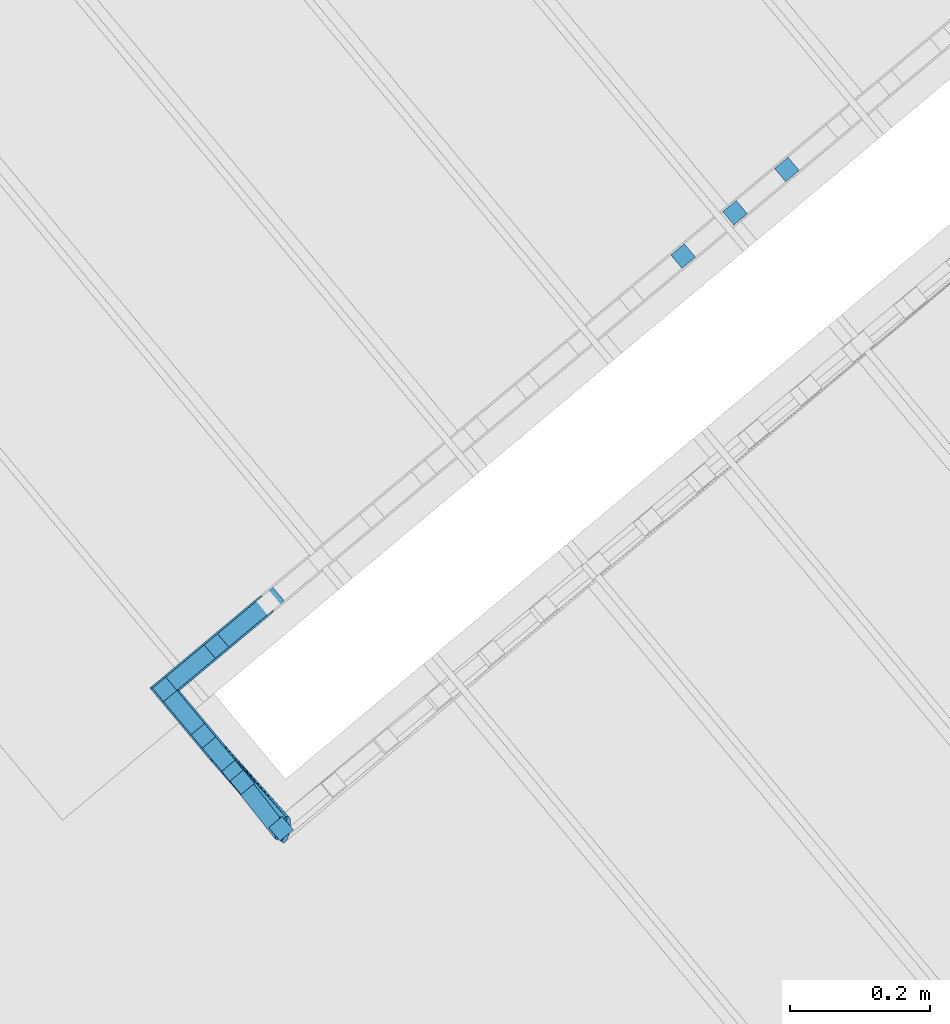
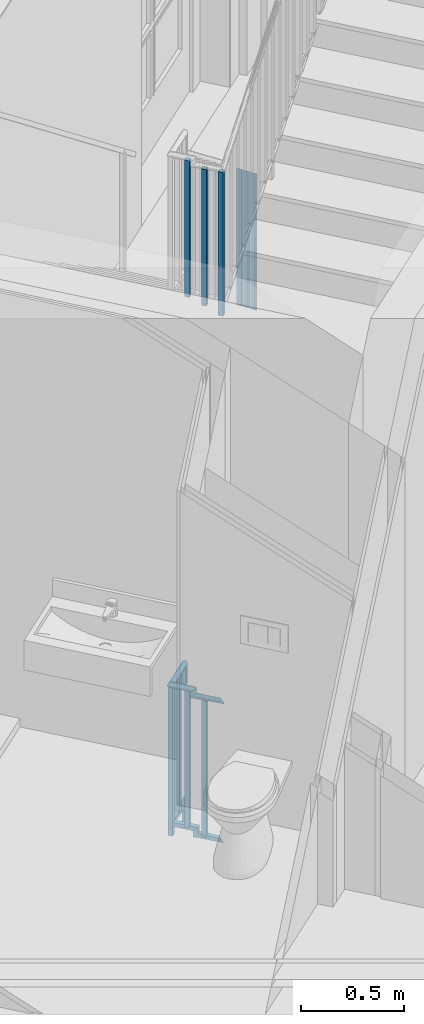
# One storey, part 59 of 75: 16 building element parts, 2 elements without a shape of their own.
"""IFC4 building model written with IfcOpenShell, lengths in metres."""

from ifc_helpers import new_model, entity, si_unit, converted_unit, derived_unit, direction, frame, origin_with_axes, place, context, subcontext, project, spatial, polygons, material, type_object, element, aggregate, save


model = new_model("IFC4")

# Units and contexts
model_context = context("Model", 3, precision=1e-05, world=origin_with_axes(), true_north=direction((0.0, 1.0)))
body_context = subcontext(model_context, "Body", "Model", "MODEL_VIEW")
ifc_project = project(units=[si_unit("LENGTHUNIT", "METRE"), si_unit("AREAUNIT", "SQUARE_METRE"), si_unit("VOLUMEUNIT", "CUBIC_METRE"), converted_unit("PLANEANGLEUNIT", "DEGREE", entity("IfcPlaneAngleMeasure", 0.0174532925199), si_unit("PLANEANGLEUNIT", "RADIAN"), dimensions=[0, 0, 0, 0, 0, 0, 0]), converted_unit("TIMEUNIT", "Year", entity("IfcTimeMeasure", 31556926.0), si_unit("TIMEUNIT", "SECOND"), dimensions=[0, 0, 1, 0, 0, 0, 0]), si_unit("MASSUNIT", "GRAM", prefix="KILO"), si_unit("THERMODYNAMICTEMPERATUREUNIT", "DEGREE_CELSIUS"), si_unit("LUMINOUSINTENSITYUNIT", "LUMEN"), si_unit("ENERGYUNIT", "JOULE", prefix="MEGA"), derived_unit("THERMALCONDUCTANCEUNIT", [(si_unit("POWERUNIT", "WATT"), 1), (si_unit("LENGTHUNIT", "METRE"), -1), (si_unit("THERMODYNAMICTEMPERATUREUNIT", "KELVIN"), -1)]), derived_unit("SPECIFICHEATCAPACITYUNIT", [(si_unit("ENERGYUNIT", "JOULE"), 1), (si_unit("MASSUNIT", "GRAM", prefix="KILO"), -1), (si_unit("THERMODYNAMICTEMPERATUREUNIT", "KELVIN"), -1)]), derived_unit("MASSDENSITYUNIT", [(si_unit("MASSUNIT", "GRAM", prefix="KILO"), 1), (si_unit("VOLUMEUNIT", "CUBIC_METRE"), -1)])], contexts=[model_context])

# Site, building, storey, space
site_placement = place(None, frame((-0.00153261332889, -0.00661245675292, 0.0), z_axis=(0.0, 0.0, 1.0), x_axis=(1.0, 0.0, 0.0)))
site = spatial("IfcSite", under=ifc_project, at=site_placement, Name="Gelände", CompositionType="ELEMENT")
building_placement = place(site_placement, origin_with_axes())
building = spatial("IfcBuilding", under=site, at=building_placement, Name="Gebäude", CompositionType="ELEMENT")
storey_placement = place(building_placement, frame((0.0, 0.0, -0.22), z_axis=(0.0, 0.0, 1.0), x_axis=(1.0, 0.0, 0.0)))
storey = spatial("IfcBuildingStorey", under=building, at=storey_placement, Name="EG", CompositionType="ELEMENT", Elevation=-0.22)
space_placement = place(storey_placement, frame((-1.16508896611, 24.7530172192, 0.22), z_axis=(0.0, 0.0, 1.0), x_axis=(0.641170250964, -0.76739866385, 0.0)))
space = spatial("IfcSpace", under=storey, at=space_placement, CompositionType="ELEMENT", PredefinedType="NOTDEFINED")

# Railing, building element parts
railing_type = type_object("IfcRailingType", Name="Geländerart", PredefinedType="NOTDEFINED")
railing_1_placement = place(space_placement, frame((1.19553434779, -1.19750858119e-08, -0.17), z_axis=(0.0, 0.0, 1.0), x_axis=(0.641170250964, 0.76739866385, 0.0)))
railing_1 = element("IfcRailing", 1, at=railing_1_placement, inside=space, type_object=railing_type, Name="Geländer - 001", PredefinedType="NOTDEFINED")
ifc_material = material(Name="BEKLEIDUNG")
building_element_part_1_placement = place(railing_1_placement, origin_with_axes())
building_element_part_1 = element("IfcBuildingElementPart", 2, at=building_element_part_1_placement, material=ifc_material, Name="BEKLEIDUNG", PredefinedType="NOTDEFINED", context=body_context, shape_type="Tessellation", body=[
    polygons([(-1.64801867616, -1.66682135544, 1.77058823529), (-1.62883452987, -1.65079111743, 1.77058823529), (-1.62883452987, -1.65079111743, 2.61989887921), (-1.64801867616, -1.66682135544, 2.61989887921), (-1.66404891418, -1.64763720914, 1.77058823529), (-1.64486476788, -1.63160697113, 1.77058823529), (-1.64486476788, -1.63160697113, 2.61989887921), (-1.66404891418, -1.64763720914, 2.61989887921)], [[[1, 2, 3, 4]], [[1, 5, 6, 2]], [[2, 6, 7, 3]], [[4, 3, 7, 8]], [[5, 1, 4, 8]], [[6, 5, 8, 7]]], closed=True),
])
building_element_part_2_placement = place(railing_1_placement, origin_with_axes())
building_element_part_2 = element("IfcBuildingElementPart", 3, at=building_element_part_2_placement, material=ifc_material, Name="BEKLEIDUNG", PredefinedType="NOTDEFINED", context=body_context, shape_type="Tessellation", body=[
    polygons([(-0.940200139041, -0.704103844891, 0.984533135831), (-0.92417088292, -0.723288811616, 0.984533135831), (-0.92417088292, -0.723288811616, 1.79203313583), (-0.940200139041, -0.704103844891, 1.79203313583), (-0.921015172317, -0.68807458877, 0.965041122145), (-0.904985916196, -0.707259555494, 0.965041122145), (-0.904985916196, -0.707259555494, 1.77254112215), (-0.921015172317, -0.68807458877, 1.77254112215)], [[[1, 2, 3, 4]], [[1, 5, 6, 2]], [[2, 6, 7, 3]], [[4, 3, 7, 8]], [[5, 1, 4, 8]], [[6, 5, 8, 7]]], closed=True),
])
building_element_part_3_placement = place(railing_1_placement, origin_with_axes())
building_element_part_3 = element("IfcBuildingElementPart", 4, at=building_element_part_3_placement, material=ifc_material, Name="BEKLEIDUNG", PredefinedType="NOTDEFINED", context=body_context, shape_type="Tessellation", body=[
    polygons([(-1.01441134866, -0.766108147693, 1.05993206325), (-0.998382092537, -0.785293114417, 1.05993206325), (-0.998382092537, -0.785293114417, 1.86743206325), (-1.01441134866, -0.766108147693, 1.86743206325), (-0.995226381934, -0.750078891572, 1.04044004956), (-0.979197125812, -0.769263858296, 1.04044004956), (-0.979197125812, -0.769263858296, 1.84794004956), (-0.995226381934, -0.750078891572, 1.84794004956)], [[[1, 2, 3, 4]], [[1, 5, 6, 2]], [[2, 6, 7, 3]], [[4, 3, 7, 8]], [[5, 1, 4, 8]], [[6, 5, 8, 7]]], closed=True),
])
building_element_part_4_placement = place(railing_1_placement, origin_with_axes())
building_element_part_4 = element("IfcBuildingElementPart", 5, at=building_element_part_4_placement, material=ifc_material, Name="BEKLEIDUNG", PredefinedType="NOTDEFINED", context=body_context, shape_type="Tessellation", body=[
    polygons([(-1.08862255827, -0.828112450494, 1.13533099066), (-1.07259330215, -0.847297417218, 1.13533099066), (-1.07259330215, -0.847297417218, 1.94283099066), (-1.08862255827, -0.828112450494, 1.94283099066), (-1.06943759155, -0.812083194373, 1.11583897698), (-1.05340833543, -0.831268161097, 1.11583897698), (-1.05340833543, -0.831268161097, 1.92333897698), (-1.06943759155, -0.812083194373, 1.92333897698)], [[[1, 2, 3, 4]], [[1, 5, 6, 2]], [[2, 6, 7, 3]], [[4, 3, 7, 8]], [[5, 1, 4, 8]], [[6, 5, 8, 7]]], closed=True),
])
building_element_part_5_placement = place(railing_1_placement, origin_with_axes())
building_element_part_5 = element("IfcBuildingElementPart", 6, at=building_element_part_5_placement, material=ifc_material, Name="BEKLEIDUNG", PredefinedType="NOTDEFINED", context=body_context, shape_type="Tessellation", body=[
    polygons([(-1.75914255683, -1.53383413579, 1.84058823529), (-1.73995841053, -1.51780389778, 1.84058823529), (-1.73995841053, -1.51780389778, 2.64808823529), (-1.75914255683, -1.53383413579, 2.64808823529), (-1.77517279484, -1.51464998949, 1.84058823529), (-1.75598864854, -1.49861975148, 1.84058823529), (-1.75598864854, -1.49861975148, 2.64808823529), (-1.77517279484, -1.51464998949, 2.64808823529)], [[[1, 2, 3, 4]], [[1, 5, 6, 2]], [[2, 6, 7, 3]], [[4, 3, 7, 8]], [[5, 1, 4, 8]], [[6, 5, 8, 7]]], closed=True),
])
building_element_part_6_placement = place(railing_1_placement, origin_with_axes())
building_element_part_6 = element("IfcBuildingElementPart", 7, at=building_element_part_6_placement, material=ifc_material, Name="BEKLEIDUNG", PredefinedType="NOTDEFINED", context=body_context, shape_type="Tessellation", body=[
    polygons([(-1.7035806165, -1.60032774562, 1.80989887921), (-1.6843964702, -1.5842975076, 1.80989887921), (-1.6843964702, -1.5842975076, 2.61739887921), (-1.7035806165, -1.60032774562, 2.61739887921), (-1.71961085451, -1.58114359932, 1.80989887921), (-1.70042670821, -1.5651133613, 1.80989887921), (-1.70042670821, -1.5651133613, 2.61739887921), (-1.71961085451, -1.58114359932, 2.61739887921)], [[[1, 2, 3, 4]], [[1, 5, 6, 2]], [[2, 6, 7, 3]], [[4, 3, 7, 8]], [[5, 1, 4, 8]], [[6, 5, 8, 7]]], closed=True),
])
aggregate(railing_1, [building_element_part_1, building_element_part_2, building_element_part_3, building_element_part_4, building_element_part_5, building_element_part_6])

railing_2_placement = place(space_placement, frame((1.1955343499, 0.255237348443, -3.3), z_axis=(0.0, 0.0, 1.0), x_axis=(0.641170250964, 0.76739866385, 0.0)))
railing_2 = element("IfcRailing", 8, at=railing_2_placement, inside=space, type_object=railing_type, Name="Geländer - 001", PredefinedType="NOTDEFINED")
building_element_part_7_placement = place(railing_2_placement, origin_with_axes())
building_element_part_7 = element("IfcBuildingElementPart", 9, at=building_element_part_7_placement, material=ifc_material, Name="BEKLEIDUNG", PredefinedType="NOTDEFINED", context=body_context, shape_type="Tessellation", body=[
    polygons([(-2.02660346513, -1.61180607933, 1.76666666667), (-2.01057420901, -1.63099104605, 1.76666666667), (-2.01057420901, -1.63099104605, 2.64666666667), (-2.02660346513, -1.61180607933, 2.64666666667), (-2.00741849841, -1.59577682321, 1.76666666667), (-1.99138924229, -1.61496178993, 1.76666666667), (-1.99138924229, -1.61496178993, 2.64666666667), (-2.00741849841, -1.59577682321, 2.64666666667)], [[[1, 2, 3, 4]], [[1, 5, 6, 2]], [[2, 6, 7, 3]], [[4, 3, 7, 8]], [[5, 1, 4, 8]], [[6, 5, 8, 7]]], closed=True),
])
building_element_part_8_placement = place(railing_2_placement, origin_with_axes())
building_element_part_8 = element("IfcBuildingElementPart", 10, at=building_element_part_8_placement, material=ifc_material, Name="BEKLEIDUNG", PredefinedType="NOTDEFINED", context=body_context, shape_type="Tessellation", body=[
    polygons([(-1.85393876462, -1.46754277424, 1.72608830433), (-1.87312373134, -1.48357203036, 1.71386290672), (-1.87312373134, -1.48357203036, 1.82416666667), (-2.0266039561, -1.61180648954, 1.82416666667), (-2.0266039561, -1.61180648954, 1.84916666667), (-1.85393876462, -1.46754277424, 1.84916666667), (-1.8379095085, -1.48672774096, 1.72608830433), (-1.85709447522, -1.50275699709, 1.71386290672), (-1.85709447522, -1.50275699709, 1.82416666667), (-1.99138875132, -1.61496137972, 1.82416666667), (-1.99138875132, -1.61496137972, 1.84916666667), (-1.8379095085, -1.48672774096, 1.84916666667)], [[[1, 2, 3, 4, 5, 6]], [[1, 7, 8, 2]], [[2, 8, 9, 3]], [[3, 9, 10, 4]], [[5, 4, 10, 11]], [[12, 6, 5, 11]], [[7, 1, 6, 12]], [[8, 7, 12, 11, 10, 9]]], closed=True),
])
building_element_part_9_placement = place(railing_2_placement, origin_with_axes())
building_element_part_9 = element("IfcBuildingElementPart", 11, at=building_element_part_9_placement, material=ifc_material, Name="BEKLEIDUNG", PredefinedType="NOTDEFINED", context=body_context, shape_type="Tessellation", body=[
    polygons([(-1.85741004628, -1.50627841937, 2.54264036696), (-1.85555729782, -1.50443347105, 2.54391411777), (-1.85555729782, -1.50443347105, 2.65427138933), (-1.85741004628, -1.50627841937, 2.65166666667), (-1.85955501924, -1.50777361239, 2.54136661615), (-1.86192704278, -1.50887361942, 2.54013156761), (-1.86445404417, -1.5095450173, 2.53897274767), (-1.86705924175, -1.50976740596, 2.53792536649), (-1.86966347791, -1.50953402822, 2.53702124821), (-1.87218762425, -1.50885197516, 2.53628786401), (-1.87455498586, -1.50774197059, 2.5357474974), (-1.87669363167, -1.50623774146, 2.53541656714), (-1.87853857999, -1.50438499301, 2.53530512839), (-1.880033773, -1.50224002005, 2.53541656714), (-1.88113378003, -1.49986799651, 2.5357474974), (-1.88180517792, -1.49734099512, 2.53628786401), (-1.88202756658, -1.49473579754, 2.53702124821), (-1.88179418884, -1.49213156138, 2.53792536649), (-1.88111213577, -1.48960741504, 2.53897274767), (-1.88000213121, -1.48724005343, 2.54013156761), (-1.87849790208, -1.48510140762, 2.54136661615), (-1.87664515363, -1.4832564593, 2.54264036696), (-1.87450018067, -1.48176126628, 2.54391411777), (-1.87212815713, -1.48066125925, 2.5451491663), (-1.86960115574, -1.47998986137, 2.54630798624), (-1.86699595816, -1.47976747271, 2.54735536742), (-1.864391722, -1.48000085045, 2.5482594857), (-1.86186757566, -1.48068290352, 2.5489928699), (-1.85950021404, -1.48179290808, 2.54953323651), (-1.85736156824, -1.48329713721, 2.54986416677), (-1.85551661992, -1.48514988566, 2.54997560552), (-1.8540214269, -1.48729485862, 2.54986416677), (-1.85292141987, -1.48966688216, 2.54953323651), (-1.85225002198, -1.49219388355, 2.5489928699), (-1.85202763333, -1.49479908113, 2.5482594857), (-1.85226101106, -1.49740331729, 2.54735536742), (-1.85294306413, -1.49992746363, 2.54630798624), (-1.8540530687, -1.50229482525, 2.5451491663), (-1.8540530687, -1.50229482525, 2.65679696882), (-1.98818822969, -1.61524811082, 2.65427138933), (-1.98786723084, -1.61527686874, 2.65166666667), (-1.85955501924, -1.50777361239, 2.649061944), (-1.86192704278, -1.50887361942, 2.64653636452), (-1.86445404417, -1.5095450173, 2.64416666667), (-1.86705924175, -1.50976740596, 2.64202485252), (-1.86966347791, -1.50953402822, 2.64017600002), (-1.87218762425, -1.50885197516, 2.63867628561), (-1.87455498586, -1.50774197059, 2.63757127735), (-1.87669363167, -1.50623774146, 2.63689455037), (-1.87853857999, -1.50438499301, 2.63666666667), (-1.880033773, -1.50224002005, 2.63689455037), (-1.88113378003, -1.49986799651, 2.63757127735), (-1.88180517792, -1.49734099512, 2.63867628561), (-1.88202756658, -1.49473579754, 2.64017600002), (-1.88179418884, -1.49213156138, 2.64202485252), (-1.88111213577, -1.48960741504, 2.64416666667), (-1.88000213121, -1.48724005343, 2.64653636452), (-1.87849790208, -1.48510140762, 2.649061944), (-1.87664515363, -1.4832564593, 2.65166666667), (-1.87450018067, -1.48176126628, 2.65427138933), (-1.87212815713, -1.48066125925, 2.65679696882), (-1.86960115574, -1.47998986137, 2.65916666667), (-1.86699595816, -1.47976747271, 2.66130848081), (-1.864391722, -1.48000085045, 2.66315733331), (-1.86186757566, -1.48068290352, 2.66465704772), (-1.85950021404, -1.48179290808, 2.66576205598), (-1.85736156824, -1.48329713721, 2.66643878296), (-1.85551661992, -1.48514988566, 2.66666666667), (-1.8540214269, -1.48729485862, 2.66643878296), (-1.85292141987, -1.48966688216, 2.66576205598), (-1.85225002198, -1.49219388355, 2.66465704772), (-1.85202763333, -1.49479908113, 2.66315733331), (-1.85226101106, -1.49740331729, 2.66130848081), (-1.85294306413, -1.49992746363, 2.65916666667), (-1.98914147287, -1.61516271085, 2.65679696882), (-1.99069799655, -1.61502326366, 2.65916666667), (-1.99281050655, -1.61483400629, 2.66130848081), (-1.99541481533, -1.61460068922, 2.66315733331), (-1.99843179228, -1.61433040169, 2.66465704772), (-2.00176976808, -1.61403135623, 2.66576205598), (-2.00532732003, -1.61371263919, 2.66643878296), (-2.00899635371, -1.61338393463, 2.66666666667), (-2.01266538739, -1.61305523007, 2.66643878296), (-2.01622293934, -1.61273651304, 2.66576205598), (-2.01956091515, -1.61243746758, 2.66465704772), (-2.0225778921, -1.61216718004, 2.66315733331), (-2.02518220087, -1.61193386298, 2.66130848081), (-2.02729471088, -1.61174460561, 2.65916666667), (-2.02885123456, -1.61160515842, 2.65679696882), (-2.02980447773, -1.61151975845, 2.65427138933), (-2.03012547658, -1.61149100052, 2.65166666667), (-2.02980447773, -1.61151975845, 2.649061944), (-2.02885123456, -1.61160515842, 2.64653636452), (-2.02729471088, -1.61174460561, 2.64416666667), (-2.02518220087, -1.61193386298, 2.64202485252), (-2.0225778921, -1.61216718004, 2.64017600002), (-2.01956091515, -1.61243746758, 2.63867628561), (-2.01622293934, -1.61273651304, 2.63757127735), (-2.01266538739, -1.61305523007, 2.63689455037), (-2.00899635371, -1.61338393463, 2.63666666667), (-2.00532732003, -1.61371263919, 2.63689455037), (-2.00176976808, -1.61403135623, 2.63757127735), (-1.99843179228, -1.61433040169, 2.63867628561), (-1.99541481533, -1.61460068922, 2.64017600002), (-1.99281050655, -1.61483400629, 2.64202485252), (-1.99069799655, -1.61502326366, 2.64416666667), (-1.98914147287, -1.61516271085, 2.64653636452), (-1.98818822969, -1.61524811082, 2.649061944)], [[[1, 2, 3, 4]], [[1, 5, 6, 7, 8, 9, 10, 11, 12, 13, 14, 15, 16, 17, 18, 19, 20, 21, 22, 23, 24, 25, 26, 27, 28, 29, 30, 31, 32, 33, 34, 35, 36, 37, 38, 2]], [[2, 38, 39, 3]], [[4, 3, 40, 41]], [[5, 1, 4, 42]], [[6, 5, 42, 43]], [[7, 6, 43, 44]], [[8, 7, 44, 45]], [[9, 8, 45, 46]], [[10, 9, 46, 47]], [[11, 10, 47, 48]], [[12, 11, 48, 49]], [[13, 12, 49, 50]], [[14, 13, 50, 51]], [[15, 14, 51, 52]], [[16, 15, 52, 53]], [[17, 16, 53, 54]], [[18, 17, 54, 55]], [[19, 18, 55, 56]], [[20, 19, 56, 57]], [[21, 20, 57, 58]], [[22, 21, 58, 59]], [[23, 22, 59, 60]], [[24, 23, 60, 61]], [[25, 24, 61, 62]], [[26, 25, 62, 63]], [[27, 26, 63, 64]], [[28, 27, 64, 65]], [[29, 28, 65, 66]], [[30, 29, 66, 67]], [[31, 30, 67, 68]], [[32, 31, 68, 69]], [[33, 32, 69, 70]], [[34, 33, 70, 71]], [[35, 34, 71, 72]], [[36, 35, 72, 73]], [[37, 36, 73, 74]], [[38, 37, 74, 39]], [[3, 39, 75, 40]], [[41, 40, 75, 76, 77, 78, 79, 80, 81, 82, 83, 84, 85, 86, 87, 88, 89, 90, 91, 92, 93, 94, 95, 96, 97, 98, 99, 100, 101, 102, 103, 104, 105, 106, 107, 108]], [[42, 4, 41, 108]], [[43, 42, 108, 107]], [[44, 43, 107, 106]], [[45, 44, 106, 105]], [[46, 45, 105, 104]], [[47, 46, 104, 103]], [[48, 47, 103, 102]], [[49, 48, 102, 101]], [[50, 49, 101, 100]], [[51, 50, 100, 99]], [[52, 51, 99, 98]], [[53, 52, 98, 97]], [[54, 53, 97, 96]], [[55, 54, 96, 95]], [[56, 55, 95, 94]], [[57, 56, 94, 93]], [[58, 57, 93, 92]], [[59, 58, 92, 91]], [[60, 59, 91, 90]], [[61, 60, 90, 89]], [[62, 61, 89, 88]], [[63, 62, 88, 87]], [[64, 63, 87, 86]], [[65, 64, 86, 85]], [[66, 65, 85, 84]], [[67, 66, 84, 83]], [[68, 67, 83, 82]], [[69, 68, 82, 81]], [[70, 69, 81, 80]], [[71, 70, 80, 79]], [[72, 71, 79, 78]], [[73, 72, 78, 77]], [[74, 73, 77, 76]], [[39, 74, 76, 75]]], closed=True),
])
building_element_part_10_placement = place(railing_2_placement, origin_with_axes())
building_element_part_10 = element("IfcBuildingElementPart", 12, at=building_element_part_10_placement, material=ifc_material, Name="BEKLEIDUNG", PredefinedType="NOTDEFINED", context=body_context, shape_type="Tessellation", body=[
    polygons([(-1.92723039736, -1.73073154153, 1.84916666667), (-1.94326063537, -1.71154739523, 1.82416666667), (-1.94326063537, -1.71154739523, 1.78865718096), (-1.92723039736, -1.73073154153, 1.81365718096), (-1.90804625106, -1.71470130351, 1.84916666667), (-1.92407648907, -1.69551715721, 1.82416666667), (-1.92407648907, -1.69551715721, 1.78865718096), (-1.84006881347, -1.82972343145, 1.78913137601), (-1.90804625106, -1.71470130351, 1.81365718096), (-1.83395427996, -1.79805216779, 1.78913137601), (-1.85066678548, -1.82767736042, 1.81318298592), (-1.84455225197, -1.79600609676, 1.81318298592)], [[[1, 2, 3, 4]], [[1, 5, 6, 2]], [[2, 6, 7, 3]], [[4, 3, 8]], [[5, 1, 4, 9]], [[6, 5, 9, 7]], [[3, 7, 10]], [[3, 10, 8]], [[4, 8, 11]], [[9, 4, 11]], [[7, 9, 12]], [[7, 12, 10]], [[11, 8, 10, 12]], [[9, 11, 12]]], closed=True),
])
building_element_part_11_placement = place(railing_2_placement, origin_with_axes())
building_element_part_11 = element("IfcBuildingElementPart", 13, at=building_element_part_11_placement, material=ifc_material, Name="BEKLEIDUNG", PredefinedType="NOTDEFINED", context=body_context, shape_type="Tessellation", body=[
    polygons([(-1.92376109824, -1.69199571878, 2.65166666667), (-1.92226579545, -1.69414061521, 2.65427138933), (-1.92226579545, -1.69414061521, 2.61876190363), (-1.92376109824, -1.69199571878, 2.61615718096), (-1.92560614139, -1.69014306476, 2.649061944), (-1.92774486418, -1.68863894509, 2.64653636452), (-1.9301122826, -1.68752906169, 2.64416666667), (-1.93263646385, -1.68684713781, 2.64202485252), (-1.93524071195, -1.68661389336, 2.64017600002), (-1.93784589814, -1.68683641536, 2.63867628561), (-1.94037286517, -1.68750794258, 2.63757127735), (-1.9427448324, -1.68860807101, 2.63689455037), (-1.94488972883, -1.69010337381, 2.63666666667), (-1.94674238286, -1.69194841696, 2.63689455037), (-1.94824650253, -1.69408713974, 2.63757127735), (-1.94935638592, -1.69645455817, 2.63867628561), (-1.9500383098, -1.69897873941, 2.64017600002), (-1.95027155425, -1.70158298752, 2.64202485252), (-1.95004903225, -1.70418817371, 2.64416666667), (-1.94937750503, -1.70671514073, 2.64653636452), (-1.9482773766, -1.70908710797, 2.649061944), (-1.9467820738, -1.7112320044, 2.65166666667), (-1.94493703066, -1.71308465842, 2.65427138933), (-1.94279830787, -1.71458877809, 2.65679696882), (-1.94043088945, -1.71569866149, 2.65916666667), (-1.9379067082, -1.71638058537, 2.66130848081), (-1.9353024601, -1.71661382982, 2.66315733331), (-1.9326972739, -1.71639130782, 2.66465704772), (-1.93017030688, -1.7157197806, 2.66576205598), (-1.92779833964, -1.71461965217, 2.66643878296), (-1.92565344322, -1.71312434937, 2.66666666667), (-1.92380078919, -1.71127930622, 2.66643878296), (-1.92229666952, -1.70914058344, 2.66576205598), (-1.92118678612, -1.70677316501, 2.66465704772), (-1.92050486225, -1.70424898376, 2.66315733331), (-1.9202716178, -1.70164473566, 2.66130848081), (-1.92049413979, -1.69903954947, 2.65916666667), (-1.92116566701, -1.69651258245, 2.65679696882), (-1.92116566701, -1.69651258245, 2.62128748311), (-1.83344295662, -1.79516516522, 2.61923212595), (-1.92560614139, -1.69014306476, 2.6135524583), (-1.92774486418, -1.68863894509, 2.61102687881), (-1.9301122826, -1.68752906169, 2.60865718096), (-1.93263646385, -1.68684713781, 2.60651536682), (-1.93524071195, -1.68661389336, 2.60466651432), (-1.93784589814, -1.68683641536, 2.60316679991), (-1.94037286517, -1.68750794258, 2.60206179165), (-1.9427448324, -1.68860807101, 2.60138506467), (-1.94488972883, -1.69010337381, 2.60115718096), (-1.94674238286, -1.69194841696, 2.60138506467), (-1.94824650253, -1.69408713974, 2.60206179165), (-1.94935638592, -1.69645455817, 2.60316679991), (-1.9500383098, -1.69897873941, 2.60466651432), (-1.95027155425, -1.70158298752, 2.60651536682), (-1.95004903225, -1.70418817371, 2.60865718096), (-1.94937750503, -1.70671514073, 2.61102687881), (-1.9482773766, -1.70908710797, 2.6135524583), (-1.9467820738, -1.7112320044, 2.61615718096), (-1.94493703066, -1.71308465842, 2.61876190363), (-1.94279830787, -1.71458877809, 2.62128748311), (-1.94043088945, -1.71569866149, 2.62365718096), (-1.9379067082, -1.71638058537, 2.62579899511), (-1.9353024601, -1.71661382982, 2.62764784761), (-1.9326972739, -1.71639130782, 2.62914756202), (-1.93017030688, -1.7157197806, 2.63025257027), (-1.92779833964, -1.71461965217, 2.63092929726), (-1.92565344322, -1.71312434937, 2.63115718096), (-1.92380078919, -1.71127930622, 2.63092929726), (-1.92229666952, -1.70914058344, 2.63025257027), (-1.92118678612, -1.70677316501, 2.62914756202), (-1.92050486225, -1.70424898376, 2.62764784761), (-1.9202716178, -1.70164473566, 2.62579899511), (-1.92049413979, -1.69903954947, 2.62365718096), (-1.83467911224, -1.79581577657, 2.62166189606), (-1.8322830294, -1.79508964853, 2.61672621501), (-1.83123457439, -1.79559152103, 2.61422030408), (-1.83032944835, -1.79665553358, 2.61179053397), (-1.82959515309, -1.7982493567, 2.60951073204), (-1.8290539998, -1.80032456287, 2.60745016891), (-1.82872243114, -1.80281809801, 2.60567145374), (-1.82861052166, -1.80565419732, 2.6042286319), (-1.82872167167, -1.80874668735, 2.6031655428), (-1.82905250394, -1.81200160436, 2.60251448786), (-1.8295929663, -1.81532004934, 2.60229524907), (-1.83032663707, -1.81860119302, 2.60251448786), (-1.83123122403, -1.82174533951, 2.6031655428), (-1.83227924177, -1.82465695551, 2.6042286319), (-1.8334388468, -1.82724757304, 2.60567145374), (-1.8346748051, -1.8294384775, 2.60745016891), (-1.83594956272, -1.83116309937, 2.60951073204), (-1.83722438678, -1.83236903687, 2.61179053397), (-1.8384605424, -1.83301964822, 2.61422030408), (-1.83962046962, -1.83309516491, 2.61672621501), (-1.84066892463, -1.83259329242, 2.61923212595), (-1.84157405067, -1.83152927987, 2.62166189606), (-1.84230834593, -1.82993545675, 2.62394169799), (-1.84284949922, -1.82786025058, 2.62600226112), (-1.84318106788, -1.82536671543, 2.62778097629), (-1.84329297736, -1.82253061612, 2.62922379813), (-1.84318182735, -1.81943812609, 2.63028688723), (-1.84285099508, -1.81618320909, 2.63093794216), (-1.84231053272, -1.81286476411, 2.63115718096), (-1.84157686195, -1.80958362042, 2.63093794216), (-1.84067227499, -1.80643947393, 2.63028688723), (-1.83962425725, -1.80352785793, 2.62922379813), (-1.83846465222, -1.8009372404, 2.62778097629), (-1.83722869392, -1.79874633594, 2.62600226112), (-1.8359539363, -1.79702171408, 2.62394169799)], [[[1, 2, 3, 4]], [[1, 5, 6, 7, 8, 9, 10, 11, 12, 13, 14, 15, 16, 17, 18, 19, 20, 21, 22, 23, 24, 25, 26, 27, 28, 29, 30, 31, 32, 33, 34, 35, 36, 37, 38, 2]], [[2, 38, 39, 3]], [[4, 3, 40]], [[5, 1, 4, 41]], [[6, 5, 41, 42]], [[7, 6, 42, 43]], [[8, 7, 43, 44]], [[9, 8, 44, 45]], [[10, 9, 45, 46]], [[11, 10, 46, 47]], [[12, 11, 47, 48]], [[13, 12, 48, 49]], [[14, 13, 49, 50]], [[15, 14, 50, 51]], [[16, 15, 51, 52]], [[17, 16, 52, 53]], [[18, 17, 53, 54]], [[19, 18, 54, 55]], [[20, 19, 55, 56]], [[21, 20, 56, 57]], [[22, 21, 57, 58]], [[23, 22, 58, 59]], [[24, 23, 59, 60]], [[25, 24, 60, 61]], [[26, 25, 61, 62]], [[27, 26, 62, 63]], [[28, 27, 63, 64]], [[29, 28, 64, 65]], [[30, 29, 65, 66]], [[31, 30, 66, 67]], [[32, 31, 67, 68]], [[33, 32, 68, 69]], [[34, 33, 69, 70]], [[35, 34, 70, 71]], [[36, 35, 71, 72]], [[37, 36, 72, 73]], [[38, 37, 73, 39]], [[3, 39, 74]], [[3, 74, 40]], [[4, 40, 75]], [[41, 4, 75]], [[42, 41, 76]], [[43, 42, 77]], [[44, 43, 78]], [[45, 44, 79]], [[46, 45, 80]], [[47, 46, 81]], [[48, 47, 82]], [[49, 48, 83]], [[50, 49, 84]], [[51, 50, 85]], [[52, 51, 86]], [[53, 52, 87]], [[54, 53, 88]], [[55, 54, 89]], [[56, 55, 90]], [[57, 56, 91]], [[58, 57, 92]], [[59, 58, 93]], [[60, 59, 94]], [[61, 60, 95]], [[62, 61, 96]], [[63, 62, 97]], [[64, 63, 98]], [[65, 64, 99]], [[66, 65, 100]], [[67, 66, 101]], [[68, 67, 102]], [[69, 68, 103]], [[70, 69, 104]], [[71, 70, 105]], [[72, 71, 106]], [[73, 72, 107]], [[39, 73, 108]], [[39, 108, 74]], [[75, 40, 74, 108, 107, 106, 105, 104, 103, 102, 101, 100, 99, 98, 97, 96, 95, 94, 93, 92, 91, 90, 89, 88, 87, 86, 85, 84, 83, 82, 81, 80, 79, 78, 77, 76]], [[41, 75, 76]], [[42, 76, 77]], [[43, 77, 78]], [[44, 78, 79]], [[45, 79, 80]], [[46, 80, 81]], [[47, 81, 82]], [[48, 82, 83]], [[49, 83, 84]], [[50, 84, 85]], [[51, 85, 86]], [[52, 86, 87]], [[53, 87, 88]], [[54, 88, 89]], [[55, 89, 90]], [[56, 90, 91]], [[57, 91, 92]], [[58, 92, 93]], [[59, 93, 94]], [[60, 94, 95]], [[61, 95, 96]], [[62, 96, 97]], [[63, 97, 98]], [[64, 98, 99]], [[65, 99, 100]], [[66, 100, 101]], [[67, 101, 102]], [[68, 102, 103]], [[69, 103, 104]], [[70, 104, 105]], [[71, 105, 106]], [[72, 106, 107]], [[73, 107, 108]]], closed=True),
])
building_element_part_12_placement = place(railing_2_placement, origin_with_axes())
building_element_part_12 = element("IfcBuildingElementPart", 14, at=building_element_part_12_placement, material=ifc_material, Name="BEKLEIDUNG", PredefinedType="NOTDEFINED", context=body_context, shape_type="Tessellation", body=[
    polygons([(-1.95239225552, -1.54980177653, 1.83666666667), (-1.9363629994, -1.56898674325, 1.83666666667), (-1.9363629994, -1.56898674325, 2.64416666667), (-1.95239225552, -1.54980177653, 2.64416666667), (-1.93320728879, -1.53377252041, 1.83666666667), (-1.91717803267, -1.55295748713, 1.83666666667), (-1.91717803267, -1.55295748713, 2.64416666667), (-1.93320728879, -1.53377252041, 2.64416666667)], [[[1, 2, 3, 4]], [[1, 5, 6, 2]], [[2, 6, 7, 3]], [[4, 3, 7, 8]], [[5, 1, 4, 8]], [[6, 5, 8, 7]]], closed=True),
])
building_element_part_13_placement = place(railing_2_placement, origin_with_axes())
building_element_part_13 = element("IfcBuildingElementPart", 15, at=building_element_part_13_placement, material=ifc_material, Name="BEKLEIDUNG", PredefinedType="NOTDEFINED", context=body_context, shape_type="Tessellation", body=[
    polygons([(-1.98786723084, -1.61527686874, 2.65166666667), (-1.98818822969, -1.61524811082, 2.65427138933), (-1.92226579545, -1.69414061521, 2.65427138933), (-1.92376109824, -1.69199571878, 2.65166666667), (-1.98818822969, -1.61524811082, 2.649061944), (-1.98914147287, -1.61516271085, 2.64653636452), (-1.99069799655, -1.61502326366, 2.64416666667), (-1.99281050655, -1.61483400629, 2.64202485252), (-1.99541481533, -1.61460068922, 2.64017600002), (-1.99843179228, -1.61433040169, 2.63867628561), (-2.00176976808, -1.61403135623, 2.63757127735), (-2.00532732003, -1.61371263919, 2.63689455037), (-2.00899635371, -1.61338393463, 2.63666666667), (-2.01266538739, -1.61305523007, 2.63689455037), (-2.01622293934, -1.61273651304, 2.63757127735), (-2.01956091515, -1.61243746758, 2.63867628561), (-2.0225778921, -1.61216718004, 2.64017600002), (-2.02518220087, -1.61193386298, 2.64202485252), (-2.02729471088, -1.61174460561, 2.64416666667), (-2.02885123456, -1.61160515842, 2.64653636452), (-2.02980447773, -1.61151975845, 2.649061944), (-2.03012547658, -1.61149100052, 2.65166666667), (-2.02980447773, -1.61151975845, 2.65427138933), (-2.02885123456, -1.61160515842, 2.65679696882), (-2.02729471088, -1.61174460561, 2.65916666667), (-2.02518220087, -1.61193386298, 2.66130848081), (-2.0225778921, -1.61216718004, 2.66315733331), (-2.01956091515, -1.61243746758, 2.66465704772), (-2.01622293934, -1.61273651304, 2.66576205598), (-2.01266538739, -1.61305523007, 2.66643878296), (-2.00899635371, -1.61338393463, 2.66666666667), (-2.00532732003, -1.61371263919, 2.66643878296), (-2.00176976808, -1.61403135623, 2.66576205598), (-1.99843179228, -1.61433040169, 2.66465704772), (-1.99541481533, -1.61460068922, 2.66315733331), (-1.99281050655, -1.61483400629, 2.66130848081), (-1.99069799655, -1.61502326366, 2.65916666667), (-1.98914147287, -1.61516271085, 2.65679696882), (-1.92116566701, -1.69651258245, 2.65679696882), (-1.92049413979, -1.69903954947, 2.65916666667), (-1.9202716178, -1.70164473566, 2.66130848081), (-1.92050486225, -1.70424898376, 2.66315733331), (-1.92118678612, -1.70677316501, 2.66465704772), (-1.92229666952, -1.70914058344, 2.66576205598), (-1.92380078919, -1.71127930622, 2.66643878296), (-1.92565344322, -1.71312434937, 2.66666666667), (-1.92779833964, -1.71461965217, 2.66643878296), (-1.93017030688, -1.7157197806, 2.66576205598), (-1.9326972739, -1.71639130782, 2.66465704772), (-1.9353024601, -1.71661382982, 2.66315733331), (-1.9379067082, -1.71638058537, 2.66130848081), (-1.94043088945, -1.71569866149, 2.65916666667), (-1.94279830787, -1.71458877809, 2.65679696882), (-1.94493703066, -1.71308465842, 2.65427138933), (-1.9467820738, -1.7112320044, 2.65166666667), (-1.9482773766, -1.70908710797, 2.649061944), (-1.94937750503, -1.70671514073, 2.64653636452), (-1.95004903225, -1.70418817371, 2.64416666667), (-1.95027155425, -1.70158298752, 2.64202485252), (-1.9500383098, -1.69897873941, 2.64017600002), (-1.94935638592, -1.69645455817, 2.63867628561), (-1.94824650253, -1.69408713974, 2.63757127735), (-1.94674238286, -1.69194841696, 2.63689455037), (-1.94488972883, -1.69010337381, 2.63666666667), (-1.9427448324, -1.68860807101, 2.63689455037), (-1.94037286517, -1.68750794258, 2.63757127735), (-1.93784589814, -1.68683641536, 2.63867628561), (-1.93524071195, -1.68661389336, 2.64017600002), (-1.93263646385, -1.68684713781, 2.64202485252), (-1.9301122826, -1.68752906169, 2.64416666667), (-1.92774486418, -1.68863894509, 2.64653636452), (-1.92560614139, -1.69014306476, 2.649061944)], [[[1, 2, 3, 4]], [[1, 5, 6, 7, 8, 9, 10, 11, 12, 13, 14, 15, 16, 17, 18, 19, 20, 21, 22, 23, 24, 25, 26, 27, 28, 29, 30, 31, 32, 33, 34, 35, 36, 37, 38, 2]], [[2, 38, 39, 3]], [[4, 3, 39, 40, 41, 42, 43, 44, 45, 46, 47, 48, 49, 50, 51, 52, 53, 54, 55, 56, 57, 58, 59, 60, 61, 62, 63, 64, 65, 66, 67, 68, 69, 70, 71, 72]], [[5, 1, 4, 72]], [[6, 5, 72, 71]], [[7, 6, 71, 70]], [[8, 7, 70, 69]], [[9, 8, 69, 68]], [[10, 9, 68, 67]], [[11, 10, 67, 66]], [[12, 11, 66, 65]], [[13, 12, 65, 64]], [[14, 13, 64, 63]], [[15, 14, 63, 62]], [[16, 15, 62, 61]], [[17, 16, 61, 60]], [[18, 17, 60, 59]], [[19, 18, 59, 58]], [[20, 19, 58, 57]], [[21, 20, 57, 56]], [[22, 21, 56, 55]], [[23, 22, 55, 54]], [[24, 23, 54, 53]], [[25, 24, 53, 52]], [[26, 25, 52, 51]], [[27, 26, 51, 50]], [[28, 27, 50, 49]], [[29, 28, 49, 48]], [[30, 29, 48, 47]], [[31, 30, 47, 46]], [[32, 31, 46, 45]], [[33, 32, 45, 44]], [[34, 33, 44, 43]], [[35, 34, 43, 42]], [[36, 35, 42, 41]], [[37, 36, 41, 40]], [[38, 37, 40, 39]]], closed=True),
])
building_element_part_14_placement = place(railing_2_placement, origin_with_axes())
building_element_part_14 = element("IfcBuildingElementPart", 16, at=building_element_part_14_placement, material=ifc_material, Name="BEKLEIDUNG", PredefinedType="NOTDEFINED", context=body_context, shape_type="Tessellation", body=[
    polygons([(-2.0266039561, -1.61180648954, 1.84916666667), (-2.0266039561, -1.61180648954, 1.82416666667), (-1.94326063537, -1.71154739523, 1.82416666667), (-1.92723039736, -1.73073154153, 1.84916666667), (-1.99138875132, -1.61496137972, 1.84916666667), (-1.99138875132, -1.61496137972, 1.82416666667), (-1.92407648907, -1.69551715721, 1.82416666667), (-1.90804625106, -1.71470130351, 1.84916666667)], [[[1, 2, 3, 4]], [[1, 5, 6, 2]], [[2, 6, 7, 3]], [[4, 3, 7, 8]], [[5, 1, 4, 8]], [[6, 5, 8, 7]]], closed=True),
])
building_element_part_15_placement = place(railing_2_placement, origin_with_axes())
building_element_part_15 = element("IfcBuildingElementPart", 17, at=building_element_part_15_placement, material=ifc_material, Name="BEKLEIDUNG", PredefinedType="NOTDEFINED", context=body_context, shape_type="Tessellation", body=[
    polygons([(-1.95501136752, -1.69748473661, 1.83666666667), (-1.93582722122, -1.6814544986, 1.83666666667), (-1.93582722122, -1.6814544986, 2.64416666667), (-1.95501136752, -1.69748473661, 2.64416666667), (-1.97104160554, -1.67830059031, 1.83666666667), (-1.95185745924, -1.6622703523, 1.83666666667), (-1.95185745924, -1.6622703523, 2.64416666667), (-1.97104160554, -1.67830059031, 2.64416666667)], [[[1, 2, 3, 4]], [[1, 5, 6, 2]], [[2, 6, 7, 3]], [[4, 3, 7, 8]], [[5, 1, 4, 8]], [[6, 5, 8, 7]]], closed=True),
])
building_element_part_16_placement = place(railing_2_placement, origin_with_axes())
building_element_part_16 = element("IfcBuildingElementPart", 18, at=building_element_part_16_placement, material=ifc_material, Name="BEKLEIDUNG", PredefinedType="NOTDEFINED", context=body_context, shape_type="Tessellation", body=[
    polygons([(-1.89944942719, -1.76397834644, 1.80115718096), (-1.88026528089, -1.74794810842, 1.80115718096), (-1.88026528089, -1.74794810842, 2.60865718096), (-1.89944942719, -1.76397834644, 2.60865718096), (-1.91547966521, -1.74479420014, 1.80115718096), (-1.89629551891, -1.72876396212, 1.80115718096), (-1.89629551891, -1.72876396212, 2.60865718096), (-1.91547966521, -1.74479420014, 2.60865718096)], [[[1, 2, 3, 4]], [[1, 5, 6, 2]], [[2, 6, 7, 3]], [[4, 3, 7, 8]], [[5, 1, 4, 8]], [[6, 5, 8, 7]]], closed=True),
])
aggregate(railing_2, [building_element_part_7, building_element_part_8, building_element_part_9, building_element_part_10, building_element_part_11, building_element_part_12, building_element_part_13, building_element_part_14, building_element_part_15, building_element_part_16])

save(model, "model.ifc")
